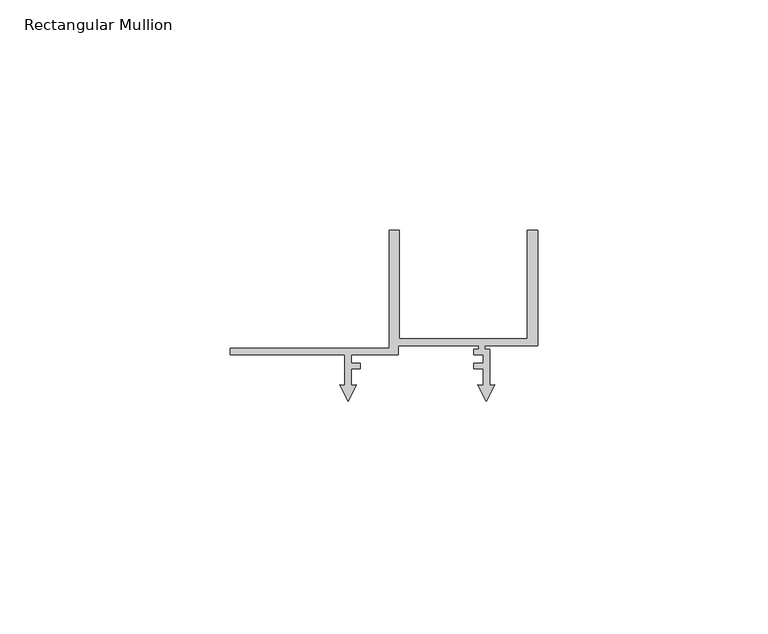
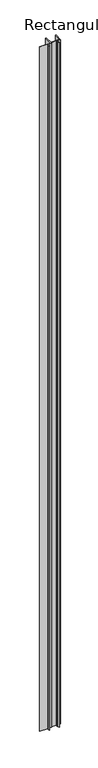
"""IFC4 building model written with IfcOpenShell, lengths in millimetres: member geometry, Rectangular Mullion : Renson_Linarte_LA-E25-01."""

from ifc_helpers import new_model, si_unit, frame, origin, place, context, project, spatial, polyline, outline, extrude, source, transform, mapped, element, save


def rectangular_mullion_a0ea876d(model_context):
    return source(origin(), model_context, "Body", "SweptSolid", [
        extrude(outline(polyline([(-66.6, 68.1000494), (-32.2, 68.1000494), (-32.2, 93.6000494), (-30.0, 93.6000494), (-30.0, 70.1000494), (-2.2, 70.1000494), (-2.2, 93.6000494), (0.0, 93.6000494), (0.0, 68.6000494), (-11.4, 68.6000494), (-11.4, 67.8015754), (-10.3999985, 67.8015754), (-10.3999985, 60.0038712), (-9.284262, 60.1014855), (-11.0999986, 56.537898), (-12.9157351, 60.1014855), (-11.7999987, 60.0038712), (-11.7999987, 63.5979618), (-13.7875618, 63.5979618), (-13.7875618, 64.8000494), (-11.8091794, 64.8000494), (-11.8091794, 66.6000494), (-13.7880766, 66.6000494), (-13.7880766, 67.8015754), (-12.8, 67.8015754), (-12.8, 68.6000494), (-30.1732051, 68.6000494), (-30.1732051, 66.6000494), (-40.3999995, 66.6000494), (-40.3999995, 64.8000494), (-38.4077357, 64.8000494), (-38.4077357, 63.599221), (-40.3999998, 63.599221), (-40.3999998, 60.0071867), (-39.2744672, 60.1056581), (-41.0999986, 56.5228474), (-42.9255299, 60.1056578), (-41.8, 60.0071867), (-41.8, 66.6000494), (-66.6, 66.6000494), (-66.6, 68.1000494)])), frame((0.0, 0.0, -2250.0), z_axis=(0.0, 0.0, 1.0), x_axis=(1.0, 0.0, 0.0)), (0.0, 0.0, 1.0), 2250.0),
    ])


if __name__ == "__main__":
    model = new_model("IFC4")
    model_context = context("Model", 3, world=origin())
    ifc_project = project(units=[si_unit("LENGTHUNIT", "METRE", prefix="MILLI")], contexts=[model_context])
    site = spatial("IfcSite", under=ifc_project)
    building = spatial("IfcBuilding", under=site)
    placement = place(None, origin())
    rectangular_mullion_shape = rectangular_mullion_a0ea876d(model_context)
    element("IfcMember", 1, ObjectType="Rectangular Mullion : Renson_Linarte_LA-E25-01", at=placement, inside=building, context=model_context, shape_type="MappedRepresentation", body=[
        mapped(rectangular_mullion_shape, transform((0.0, 0.0, 0.0), x_axis=(1.0, 0.0, 0.0), y_axis=(0.0, 1.0, 0.0), z_axis=(0.0, 0.0, 1.0))),
    ])
    save(model, "model.ifc")
